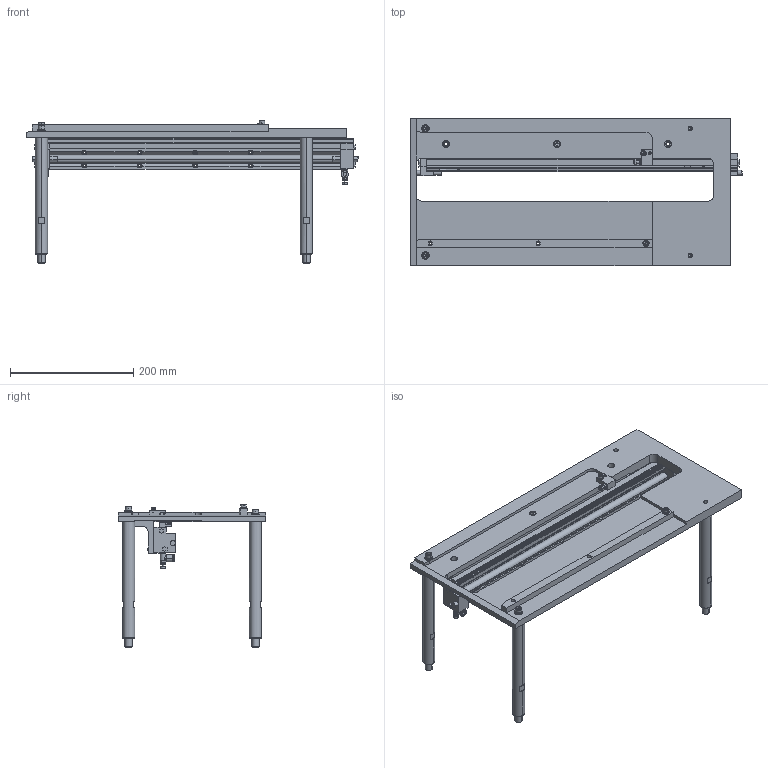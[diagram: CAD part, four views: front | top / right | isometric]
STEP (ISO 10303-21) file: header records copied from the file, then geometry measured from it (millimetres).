
FILE_DESCRIPTION (( 'STEP AP214' ), '1' );
FILE_NAME ('No000138_Base2.STEP', '2020-07-21T05:07:48', ( '' ), ( '' ), 'SwSTEP 2.0', 'SolidWorks 2017', '' );
FILE_SCHEMA (( 'AUTOMOTIVE_DESIGN' ));
Length unit declared in the file: millimetre
Products named in the file (23): socket head cap screw_iso_ISO 4762 M6 x 12 --- 12N; 0138_Z_M9NW_3; 0138_001_SFAZ20-193-F15-B10-P12-N6-SC50; 0138_007_SCBS6-20; No000138_Base2; 0138_202_Bracket; 0138_Z_UST5-20b; 0138_008_SCBS6-25; _0138_SA02; 0138_102_Speed_Controller_AS1201F-M5-06; 0138_Z_MXY12-400B-M9NW_1; 0138_Z_NUT-K5; socket head cap screw_iso_ISO 4762 M4 x 12 --- 12N; _0138_SSA01; 0138_004_SCBS4-15; 0138_003_UST5-20; 0138_101_Air_Slide_Table_MXY12-400B-M9NW; 0138_204_Guide; 0138_201_Plate; 0138_002_MS4-8; 0138_006_SCBS5-20; _0138_SA01; 0138_205_Block
Assembly tree (28 placements, depth 5):
  No000138_Base2
    _0138_SA01
      _0138_SSA01
        0138_003_UST5-20
          0138_Z_UST5-20b
          0138_Z_NUT-K5
        0138_004_SCBS4-15
        0138_205_Block
      0138_001_SFAZ20-193-F15-B10-P12-N6-SC50  x4
      0138_006_SCBS5-20
      0138_007_SCBS6-20
      0138_008_SCBS6-25
      0138_201_Plate
      0138_204_Guide
    _0138_SA02
      0138_002_MS4-8  x2
      0138_101_Air_Slide_Table_MXY12-400B-M9NW
        0138_Z_MXY12-400B-M9NW_1
        0138_Z_M9NW_3  x2
      0138_102_Speed_Controller_AS1201F-M5-06  x2
      0138_202_Bracket
      socket head cap screw_iso_ISO 4762 M4 x 12 --- 12N
    socket head cap screw_iso_ISO 4762 M6 x 12 --- 12N
Bounding box: 538.8 x 240 x 232.3 mm (x, y, z)
Volume: 2002776.8 mm3; surface area: 523862.9 mm2
Topology: 23 solids, 24 shells, 821 faces, 1978 edges, 1239 vertices
Faces by surface type: plane 379, cylinder 302, cone 120, torus 16, bspline 4
Entity records: 21677 total; most frequent: CARTESIAN_POINT 3884, DIRECTION 3602, ORIENTED_EDGE 3274, EDGE_CURVE 1637, AXIS2_PLACEMENT_3D 1335, VERTEX_POINT 1043, LINE 932, VECTOR 932
